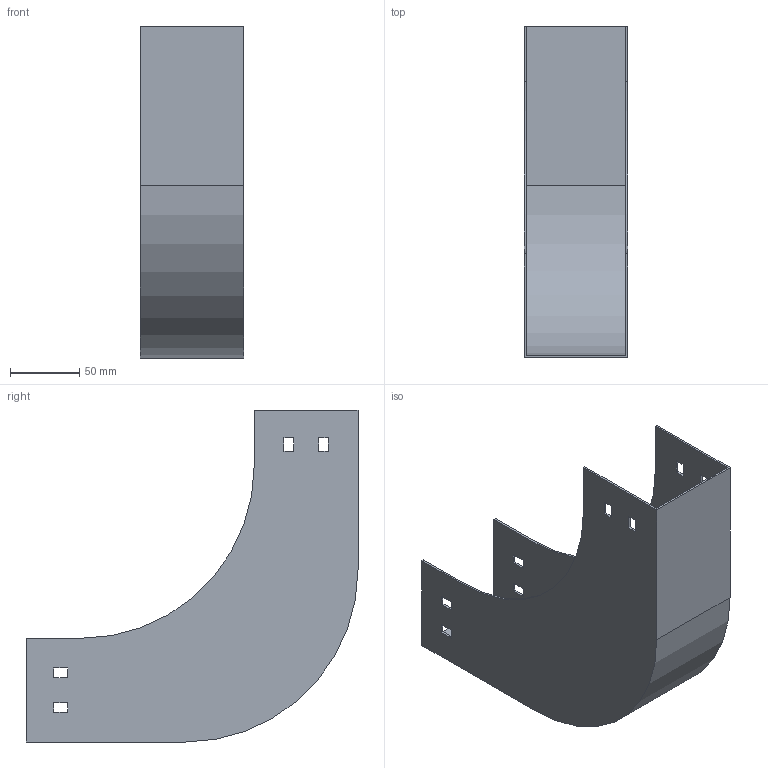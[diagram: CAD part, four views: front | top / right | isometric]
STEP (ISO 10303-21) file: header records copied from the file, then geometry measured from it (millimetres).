
FILE_DESCRIPTION (( 'STEP AP214' ), '1' );
FILE_NAME ('S9_077.step', '2025-07-16T09:27:29', ( '' ), ( '' ), 'SwSTEP 2.0', 'SolidWorks 2023', '' );
FILE_SCHEMA (( 'AUTOMOTIVE_DESIGN' ));
Length unit declared in the file: millimetre
Products named in the file (1): S9_077
Bounding box: 75 x 240 x 240 mm (x, y, z)
Volume: 136203.5 mm3; surface area: 183511.3 mm2
Topology: 1 solids, 1 shells, 50 faces, 144 edges, 96 vertices
Faces by surface type: plane 46, cylinder 4
Entity records: 1671 total; most frequent: CARTESIAN_POINT 291, ORIENTED_EDGE 288, DIRECTION 254, EDGE_CURVE 144, VECTOR 136, LINE 136, VERTEX_POINT 96, EDGE_LOOP 66
